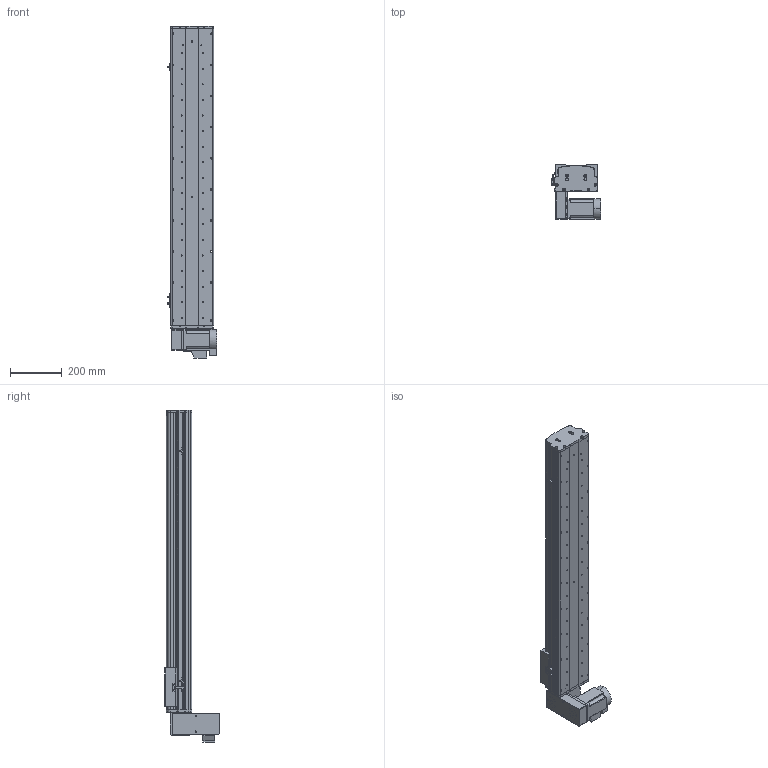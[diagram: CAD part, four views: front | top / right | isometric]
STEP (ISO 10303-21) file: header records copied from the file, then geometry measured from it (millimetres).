
FILE_DESCRIPTION (( 'STEP AP214' ), '1' );
FILE_NAME ('KSD165B-S900-MLD-CM.STEP', '2017-10-16T07:07:42', ( '微软用户' ), ( '微软中国' ), 'SwSTEP 2.0', 'SolidWorks 2014', '' );
FILE_SCHEMA (( 'AUTOMOTIVE_DESIGN' ));
Length unit declared in the file: millimetre
Products named in the file (17): 130宽模组马达安装板连板上下折丝杆同步带; 130宽模组保护罩上下左右折-同步带; HTPA26S5M250-A-H8 750W萇儂蚚; HTPA26S5M250-A-H8 400W萇儂蚚 ; 165宽马达安装板同步带左-改; KSD165模组-同步带防尘盖1-900行程-最新版; KSD165模组同步带底板-900行程-最新; 拸秶雄ん750W侜督萇儂; U倰嫖萇假蚾璃; U倰嫖萇EEㄜSX672; 覜茼え68遵圉猾敕; KSD165模组-同步带-防撞垫2; KSD165模组同步带-防撞垫1; KSD165耀郪-ヶ傷啣1-肮祭湍; KSD165模组-后端板1-同步带; KSD165模组-同步带滑动座-最新版; KSD165B-S900-MLD-CM
Assembly tree (20 placements, depth 2):
  KSD165B-S900-MLD-CM
    KSD165模组-同步带滑动座-最新版
    KSD165模组-后端板1-同步带
    KSD165耀郪-ヶ傷啣1-肮祭湍
    KSD165模组同步带-防撞垫1
    KSD165模组-同步带-防撞垫2
    覜茼え68遵圉猾敕
    U倰嫖萇EEㄜSX672  x3
    U倰嫖萇假蚾璃  x3
    拸秶雄ん750W侜督萇儂
    KSD165模组同步带底板-900行程-最新
    KSD165模组-同步带防尘盖1-900行程-最新版
    165宽马达安装板同步带左-改
    HTPA26S5M250-A-H8 400W萇儂蚚 
    HTPA26S5M250-A-H8 750W萇儂蚚
    130宽模组保护罩上下左右折-同步带
    130宽模组马达安装板连板上下折丝杆同步带
Bounding box: 191.2 x 210 x 1281 mm (x, y, z)
Volume: 7465701.8 mm3; surface area: 1735280.9 mm2
Topology: 21 solids, 22 shells, 1961 faces, 5532 edges, 3612 vertices
Faces by surface type: cylinder 1261, plane 588, cone 112
Entity records: 63624 total; most frequent: CARTESIAN_POINT 13038, DIRECTION 10460, ORIENTED_EDGE 9724, EDGE_CURVE 4862, AXIS2_PLACEMENT_3D 4104, VERTEX_POINT 3204, CIRCLE 2340, VECTOR 2252
